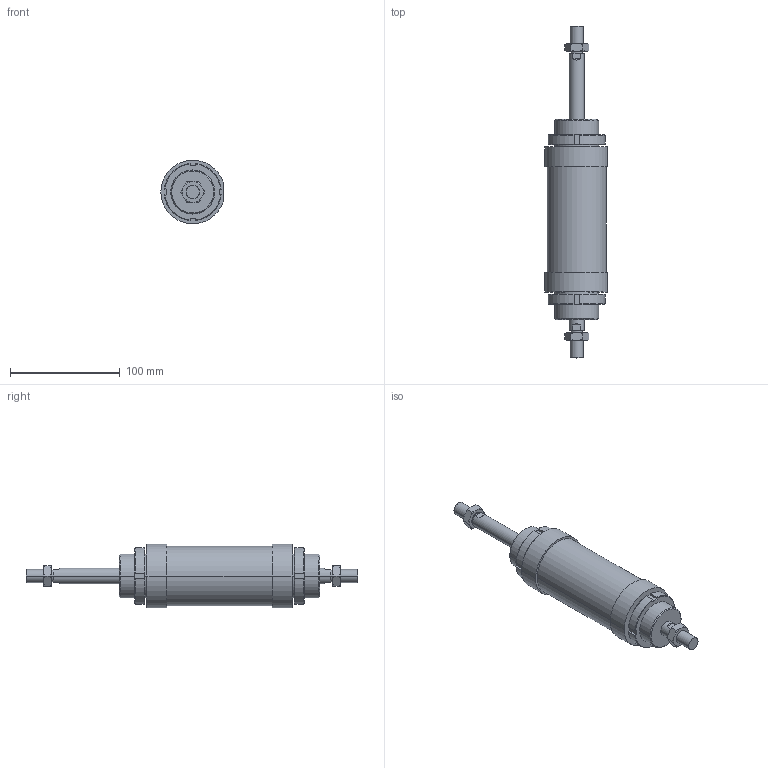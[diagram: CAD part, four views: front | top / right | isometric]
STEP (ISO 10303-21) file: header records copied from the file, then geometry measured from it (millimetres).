
FILE_DESCRIPTION((''),'2;1');
FILE_NAME('I:\DOC-EDP\Lib-3d\1200\CILINDRI\1262\1262_50_0050.stp','2003-04-02T19:15:11',('maffial1'),(''),'Autodesk Inventor (R) 6.0','Autodesk Inventor (R) 6.0','');
FILE_SCHEMA(('AUTOMOTIVE_DESIGN { 1 0 10303 214 1 1 1 1 }'));
Length unit declared in the file: millimetre
Products named in the file (5): 1262_50_0050; S1262_50_50; C1262_50_50; 1200_50_05; 1200_50_06
Assembly tree (6 placements, depth 2):
  1262_50_0050
    S1262_50_50
    C1262_50_50
    1200_50_05  x2
    1200_50_06  x2
Bounding box: 56.6 x 302 x 57.85 mm (x, y, z)
Volume: 409829.2 mm3; surface area: 67661.8 mm2
Topology: 6 solids, 6 shells, 182 faces, 424 edges, 264 vertices
Faces by surface type: plane 66, cone 56, cylinder 30, bspline 30
Entity records: 3737 total; most frequent: CARTESIAN_POINT 969, DIRECTION 572, ORIENTED_EDGE 548, EDGE_CURVE 274, AXIS2_PLACEMENT_3D 227, VERTEX_POINT 172, EDGE_LOOP 136, FACE_OUTER_BOUND 120
